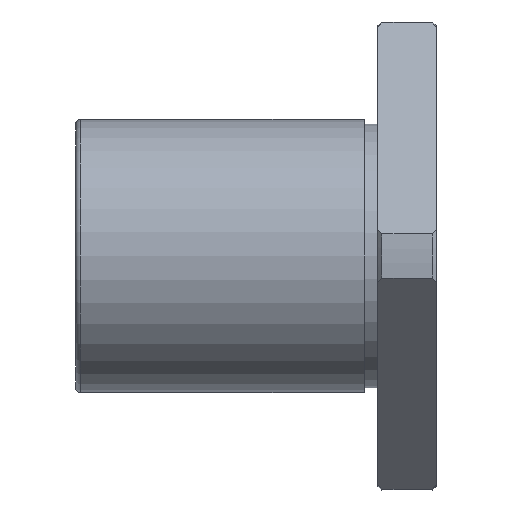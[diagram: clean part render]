
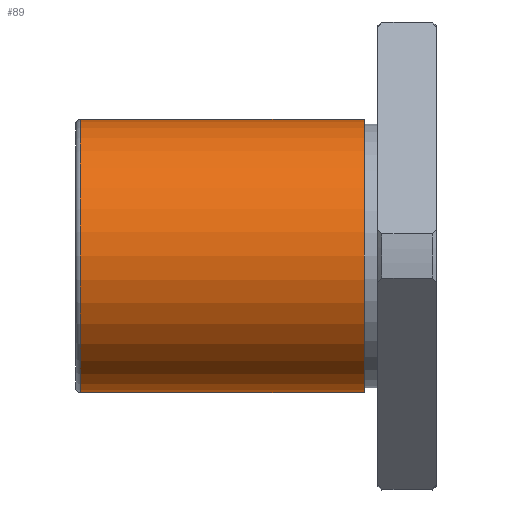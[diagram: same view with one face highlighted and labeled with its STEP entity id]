
A CAD part, front view. The second image highlights one B-rep face of the part: STEP entity #89.
In plain terms, the highlighted cylindrical face has radius 14 mm (diameter 28 mm), a full revolution.
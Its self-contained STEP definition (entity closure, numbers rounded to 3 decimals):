
#89=ADVANCED_FACE('',(#149,#150),#151,.T.);
#149=FACE_OUTER_BOUND('',#249,.T.);
#150=FACE_OUTER_BOUND('',#250,.T.);
#151=CYLINDRICAL_SURFACE('',#251,14.0);
#249=EDGE_LOOP('',(#419));
#250=EDGE_LOOP('',(#420));
#251=AXIS2_PLACEMENT_3D('',#421,#422,#423);
#419=ORIENTED_EDGE('',*,*,#612,.F.);
#420=ORIENTED_EDGE('',*,*,#613,.T.);
#421=CARTESIAN_POINT('',(-21.95,0.0,0.));
#422=DIRECTION('',(-1.0,-0.0,0.));
#423=DIRECTION('',(0.0,1.0,0.0));
#612=EDGE_CURVE('',#724,#724,#725,.T.);
#613=EDGE_CURVE('',#726,#726,#727,.T.);
#724=VERTEX_POINT('',#987);
#725=CIRCLE('',#988,14.0);
#726=VERTEX_POINT('',#989);
#727=CIRCLE('',#990,14.0);
#987=CARTESIAN_POINT('',(-36.5,14.0,0.));
#988=AXIS2_PLACEMENT_3D('',#1131,#1132,#1133);
#989=CARTESIAN_POINT('',(-7.4,14.0,0.0));
#990=AXIS2_PLACEMENT_3D('',#1134,#1135,#1136);
#1131=CARTESIAN_POINT('',(-36.5,0.0,0.));
#1132=DIRECTION('',(-1.0,0.0,0.));
#1133=DIRECTION('',(0.0,1.0,0.0));
#1134=CARTESIAN_POINT('',(-7.4,0.0,0.0));
#1135=DIRECTION('',(-1.0,0.0,0.));
#1136=DIRECTION('',(0.0,1.0,0.0));
